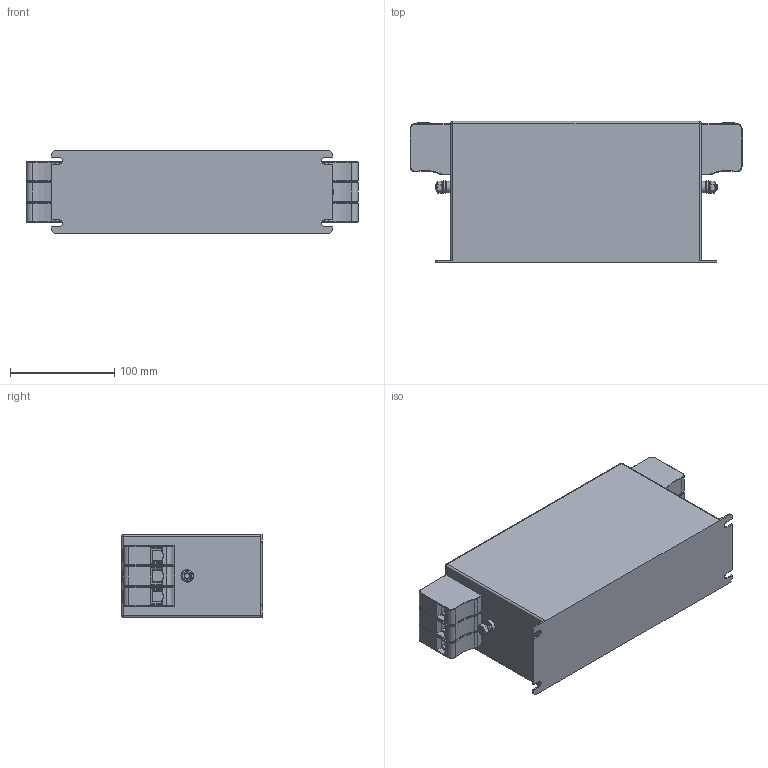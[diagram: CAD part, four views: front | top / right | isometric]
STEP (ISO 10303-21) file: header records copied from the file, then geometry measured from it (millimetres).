
FILE_DESCRIPTION(/* description */ ('raw material description'),/* implementation_level */ '2;1');
FILE_NAME(/* name */ 'H:\STEP FILE CHECKED 30.08.2017\803206\FN3258(H)-75-34.stp',/* time_stamp */ '2017-09-01T15:50:19+02:00',/* author */ ('erika.jenzer'),/* organization */ ('Schaffner EMV AG'),/* preprocessor_version */ 'ST-DEVELOPER v16.5',/* originating_system */ 'Autodesk Inventor 2017',/* authorisation */ '');
FILE_SCHEMA (('AUTOMOTIVE_DESIGN { 1 0 10303 214 3 1 1 }'));
Length unit declared in the file: millimetre
Products named in the file (1): FN3258(H)-75-34_Shrinkwrap_1
Bounding box: 318 x 135 x 80 mm (x, y, z)
Volume: 2785803 mm3; surface area: 164883.9 mm2
Topology: 1 solids, 1 shells, 622 faces, 1503 edges, 887 vertices
Faces by surface type: plane 242, cylinder 218, torus 66, bspline 60, sphere 28, cone 8
Full cylindrical faces by diameter (mm): 6 x4, 6.4 x2, 7 x6, 11.05 x2, 11.6 x6, 12 x2
Entity records: 19423 total; most frequent: CARTESIAN_POINT 4485, DIRECTION 3126, ORIENTED_EDGE 2840, EDGE_CURVE 1420, AXIS2_PLACEMENT_3D 1203, VERTEX_POINT 882, LINE 720, VECTOR 720
